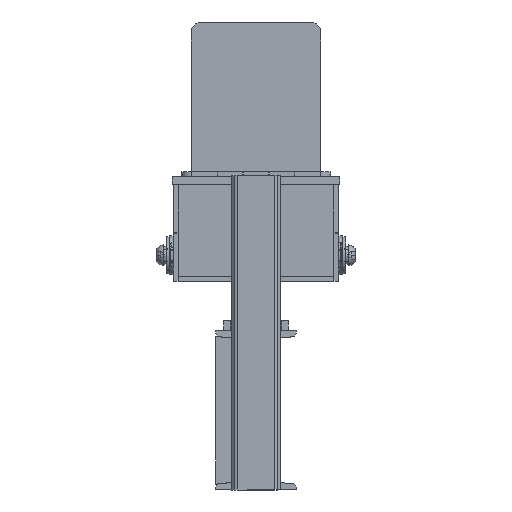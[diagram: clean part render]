
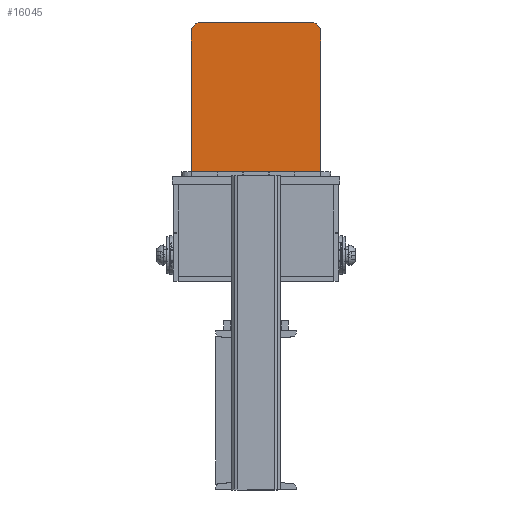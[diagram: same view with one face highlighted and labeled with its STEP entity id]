
A CAD part, left-side view. The second image highlights one B-rep face of the part: STEP entity #16045.
In plain terms, the highlighted planar face has unit normal (-1, 0, 0).
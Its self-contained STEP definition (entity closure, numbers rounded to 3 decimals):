
#16045=ADVANCED_FACE('',(#27678),#27680,.F.);
#27678=FACE_BOUND('',#27679,.T.);
#27679=EDGE_LOOP('',(#35027,#35028,#35029,#35030,#35031,#35032,#35033,#35034,#35035,
#35036,#35037,#35038,#35039,#35040));
#27680=PLANE('',#27681);
#27681=AXIS2_PLACEMENT_3D('',#27682,#27683,#27684);
#27682=CARTESIAN_POINT('',(0.,0.,0.));
#27683=DIRECTION('',(1.,0.,0.));
#27684=DIRECTION('',(0.,1.,0.));
#35027=ORIENTED_EDGE('',*,*,#38740,.F.);
#35028=ORIENTED_EDGE('',*,*,#38731,.F.);
#35029=ORIENTED_EDGE('',*,*,#38741,.F.);
#35030=ORIENTED_EDGE('',*,*,#38727,.F.);
#35031=ORIENTED_EDGE('',*,*,#38722,.F.);
#35032=ORIENTED_EDGE('',*,*,#38719,.F.);
#35033=ORIENTED_EDGE('',*,*,#38716,.F.);
#35034=ORIENTED_EDGE('',*,*,#38713,.F.);
#35035=ORIENTED_EDGE('',*,*,#38710,.F.);
#35036=ORIENTED_EDGE('',*,*,#38707,.F.);
#35037=ORIENTED_EDGE('',*,*,#38704,.F.);
#35038=ORIENTED_EDGE('',*,*,#38700,.F.);
#35039=ORIENTED_EDGE('',*,*,#38736,.F.);
#35040=ORIENTED_EDGE('',*,*,#38733,.F.);
#38700=EDGE_CURVE('',#44878,#44879,#44880,.T.);
#38704=EDGE_CURVE('',#44879,#44886,#44887,.T.);
#38707=EDGE_CURVE('',#44886,#44891,#44892,.T.);
#38710=EDGE_CURVE('',#44891,#44896,#44897,.T.);
#38713=EDGE_CURVE('',#44896,#44901,#44902,.T.);
#38716=EDGE_CURVE('',#44901,#44906,#44907,.T.);
#38719=EDGE_CURVE('',#44906,#44911,#44912,.T.);
#38722=EDGE_CURVE('',#44911,#44916,#44917,.T.);
#38727=EDGE_CURVE('',#44916,#44921,#44925,.T.);
#38731=EDGE_CURVE('',#44931,#44926,#44933,.T.);
#38733=EDGE_CURVE('',#44934,#44937,#44938,.T.);
#38736=EDGE_CURVE('',#44937,#44878,#44942,.T.);
#38740=EDGE_CURVE('',#44926,#44934,#44946,.F.);
#38741=EDGE_CURVE('',#44921,#44931,#44947,.F.);
#44878=VERTEX_POINT('',#62019);
#44879=VERTEX_POINT('',#62020);
#44880=LINE('',#62021,#62022);
#44886=VERTEX_POINT('',#62035);
#44887=LINE('',#62036,#62037);
#44891=VERTEX_POINT('',#62046);
#44892=LINE('',#62047,#62048);
#44896=VERTEX_POINT('',#62057);
#44897=LINE('',#62058,#62059);
#44901=VERTEX_POINT('',#62068);
#44902=LINE('',#62069,#62070);
#44906=VERTEX_POINT('',#62079);
#44907=LINE('',#62080,#62081);
#44911=VERTEX_POINT('',#62090);
#44912=LINE('',#62091,#62092);
#44916=VERTEX_POINT('',#62101);
#44917=LINE('',#62102,#62103);
#44921=VERTEX_POINT('',#62112);
#44925=LINE('',#62120,#62121);
#44926=VERTEX_POINT('',#62123);
#44931=VERTEX_POINT('',#62132);
#44933=LINE('',#62136,#62137);
#44934=VERTEX_POINT('',#62139);
#44937=VERTEX_POINT('',#62144);
#44938=LINE('',#62145,#62146);
#44942=LINE('',#62155,#62156);
#44946=CIRCLE('',#62169,10.);
#44947=CIRCLE('',#62173,10.);
#62019=CARTESIAN_POINT('',(0.,-39.,0.));
#62020=CARTESIAN_POINT('',(0.,-39.,5.));
#62021=CARTESIAN_POINT('',(0.,-39.,0.));
#62022=VECTOR('',#62023,1.);
#62023=DIRECTION('',(0.,0.,1.));
#62035=CARTESIAN_POINT('',(0.,-13.,5.));
#62036=CARTESIAN_POINT('',(0.,-39.,5.));
#62037=VECTOR('',#62038,1.);
#62038=DIRECTION('',(0.,1.,0.));
#62046=CARTESIAN_POINT('',(0.,-13.,0.));
#62047=CARTESIAN_POINT('',(0.,-13.,5.));
#62048=VECTOR('',#62049,1.);
#62049=DIRECTION('',(0.,0.,-1.));
#62057=CARTESIAN_POINT('',(0.,13.,0.));
#62058=CARTESIAN_POINT('',(0.,-13.,0.));
#62059=VECTOR('',#62060,1.);
#62060=DIRECTION('',(0.,1.,0.));
#62068=CARTESIAN_POINT('',(0.,13.,5.));
#62069=CARTESIAN_POINT('',(0.,13.,0.));
#62070=VECTOR('',#62071,1.);
#62071=DIRECTION('',(0.,0.,1.));
#62079=CARTESIAN_POINT('',(0.,39.,5.));
#62080=CARTESIAN_POINT('',(0.,13.,5.));
#62081=VECTOR('',#62082,1.);
#62082=DIRECTION('',(0.,1.,0.));
#62090=CARTESIAN_POINT('',(0.,39.,0.));
#62091=CARTESIAN_POINT('',(0.,39.,5.));
#62092=VECTOR('',#62093,1.);
#62093=DIRECTION('',(0.,0.,-1.));
#62101=CARTESIAN_POINT('',(0.,65.,0.));
#62102=CARTESIAN_POINT('',(0.,39.,0.));
#62103=VECTOR('',#62104,1.);
#62104=DIRECTION('',(0.,1.,0.));
#62112=CARTESIAN_POINT('',(0.,65.,145.));
#62120=CARTESIAN_POINT('',(0.,65.,0.));
#62121=VECTOR('',#62122,1.);
#62122=DIRECTION('',(0.,0.,1.));
#62123=CARTESIAN_POINT('',(0.,-55.,155.));
#62132=CARTESIAN_POINT('',(0.,55.,155.));
#62136=CARTESIAN_POINT('',(0.,55.,155.));
#62137=VECTOR('',#62138,1.);
#62138=DIRECTION('',(0.,-1.,0.));
#62139=CARTESIAN_POINT('',(0.,-65.,145.));
#62144=CARTESIAN_POINT('',(0.,-65.,0.));
#62145=CARTESIAN_POINT('',(0.,-65.,145.));
#62146=VECTOR('',#62147,1.);
#62147=DIRECTION('',(0.,0.,-1.));
#62155=CARTESIAN_POINT('',(0.,-65.,0.));
#62156=VECTOR('',#62157,1.);
#62157=DIRECTION('',(0.,1.,0.));
#62169=AXIS2_PLACEMENT_3D('',#62170,#62171,#62172);
#62170=CARTESIAN_POINT('',(0.,-55.,145.));
#62171=DIRECTION('',(-1.,0.,0.));
#62172=DIRECTION('',(0.,-1.,0.));
#62173=AXIS2_PLACEMENT_3D('',#62174,#62175,#62176);
#62174=CARTESIAN_POINT('',(0.,55.,145.));
#62175=DIRECTION('',(-1.,0.,0.));
#62176=DIRECTION('',(0.,0.,1.));
